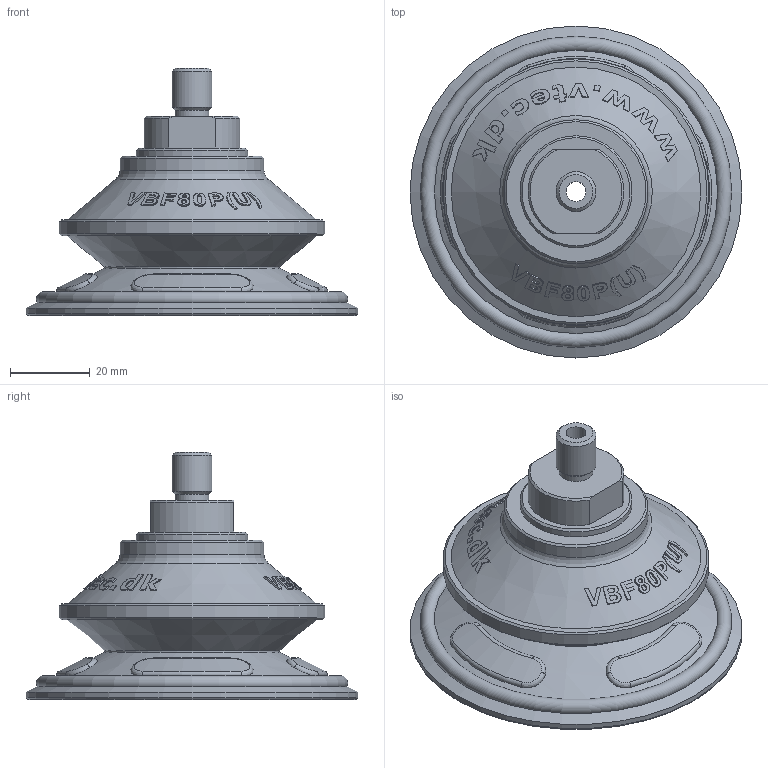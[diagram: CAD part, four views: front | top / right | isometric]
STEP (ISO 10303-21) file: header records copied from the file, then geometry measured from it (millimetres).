
FILE_DESCRIPTION( ( 'Unknown' ), '1' );
FILE_NAME( 'D:/濛機奢濰/Vacuum Pads/VBF/VBF80/STP/VBF80 P(U)_14M.stp', 'Unknown', ( 'Unknown' ), ( 'Unknown' ), 'PSStep 10.0', 'Unknown', ' ' );
FILE_SCHEMA( ( 'automotive_design' ) );
Length unit declared in the file: millimetre
Products named in the file (1): VBF80_18F
Bounding box: 83 x 83 x 62 mm (x, y, z)
Volume: 39626.5 mm3; surface area: 27371.6 mm2
Topology: 1 solids, 1 shells, 261 faces, 628 edges, 410 vertices
Faces by surface type: bspline 163, cone 53, plane 16, torus 16, cylinder 13
Full cylindrical faces by diameter (mm): 5 x1, 8.5 x1, 8.6 x1, 10 x1, 11.2 x1, 28 x1, 33 x1, 36 x1, 66.5 x1, 80 x1, 83 x1
Entity records: 17876 total; most frequent: CARTESIAN_POINT 11235, ORIENTED_EDGE 1164, EDGE_CURVE 582, B_SPLINE_CURVE_WITH_KNOTS 479, VERTEX_POINT 407, DIRECTION 396, EDGE_LOOP 347, FACE_OUTER_BOUND 284
